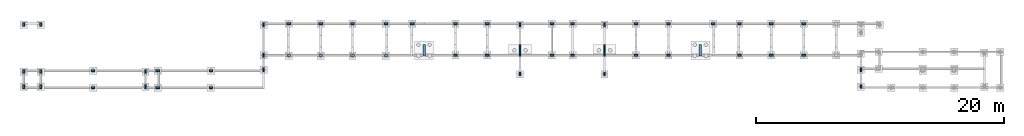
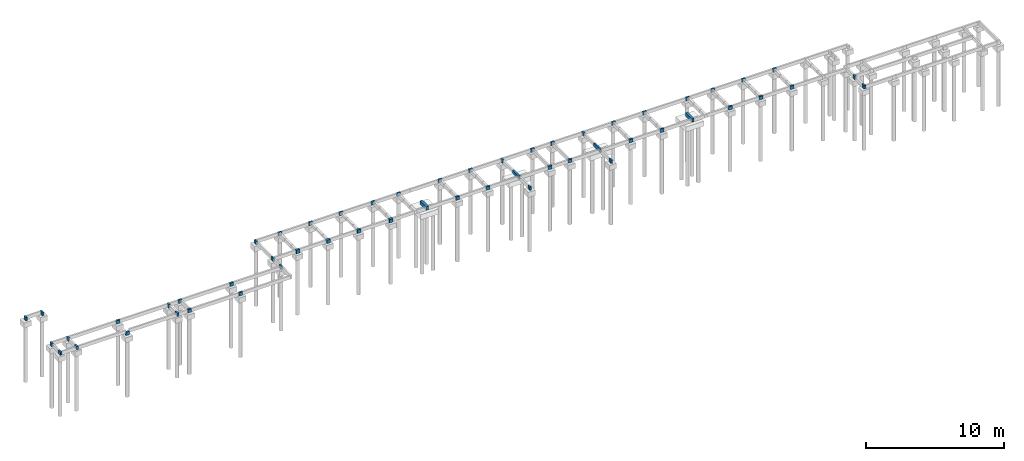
# One storey, part 2 of 6: 55 columns.
"""IFC4 building model written with IfcOpenShell, lengths in centimetres."""

import ifcopenshell
import ifcopenshell.guid

model = None  # the IFC model being written
_history = None  # IfcOwnerHistory: only IFC2X3 demands one
_inside = {}  # id of a spatial element -> (the spatial element, [elements in it])
_under = {}  # id of a project, library or spatial element -> (it, [spatial elements below it])
_declared = {}  # id of a project -> (the project, [libraries it declares])
_typed = {}  # id of a type object -> (the type object, [elements of that type])
_made_of = {}  # id of a material, layer set ... -> (it, [elements and type objects made of it])


def new_model(schema):
    """Start an empty IFC model of exactly this schema.

    Asked for "IFC4X3", IfcOpenShell would pick the latest addendum, in which some entities
    have other attributes; the version numbers below select the first issue.
    IFC2X3 requires an IfcOwnerHistory on every rooted entity: one is made here for all.
    """
    global model, _history
    if schema == "IFC4X3":
        model = ifcopenshell.file(schema_version=(4, 3, 0, 0))
    else:
        model = ifcopenshell.file(schema=schema)
    _inside.clear()
    _under.clear()
    _declared.clear()
    _typed.clear()
    _made_of.clear()
    _history = None
    if model.schema == "IFC2X3":
        org = make("IfcOrganization", Name="unknown")
        user = make(
            "IfcPersonAndOrganization",
            ThePerson=make("IfcPerson", FamilyName="unknown"),
            TheOrganization=org,
        )
        app = make(
            "IfcApplication",
            ApplicationDeveloper=org,
            Version="unknown",
            ApplicationFullName="unknown",
            ApplicationIdentifier="unknown",
        )
        _history = make(
            "IfcOwnerHistory",
            OwningUser=user,
            OwningApplication=app,
            ChangeAction="ADDED",
            CreationDate=0,
        )
    return model


def make(cls, **values):
    """One entity of the class cls with the attributes given. An attribute that is None is left unset."""
    return model.create_entity(
        cls, **{name: value for name, value in values.items() if value is not None}
    )


def rooted(cls, **values):
    """An entity with a GlobalId (a new one), such as an element, a storey or a relation."""
    return make(cls, GlobalId=ifcopenshell.guid.new(), OwnerHistory=_history, **values)


def si_unit(unit_type, name, prefix=None):
    """IfcSIUnit, for example si_unit("LENGTHUNIT", "METRE", prefix="MILLI")."""
    return make("IfcSIUnit", UnitType=unit_type, Prefix=prefix, Name=name)


def derived_unit(unit_type, elements):
    """IfcDerivedUnit: a product of units, each with its exponent."""
    return make(
        "IfcDerivedUnit",
        Elements=[
            make("IfcDerivedUnitElement", Unit=unit, Exponent=power)
            for unit, power in elements
        ],
        UnitType=unit_type,
    )


def assignment(units):
    """IfcUnitAssignment: the units of a project."""
    return None if units is None else make("IfcUnitAssignment", Units=units)


def point(xyz):
    """IfcCartesianPoint."""
    return None if xyz is None else make("IfcCartesianPoint", Coordinates=xyz)


def direction(xyz):
    """IfcDirection."""
    return None if xyz is None else make("IfcDirection", DirectionRatios=xyz)


def frame(location, z_axis=None, x_axis=None):
    """IfcAxis2Placement3D, a coordinate frame: its origin and axes. An axis left out is left unset."""
    return make(
        "IfcAxis2Placement3D",
        Location=point(location),
        Axis=direction(z_axis),
        RefDirection=direction(x_axis),
    )


def frame_2d(location, x_axis=None):
    """IfcAxis2Placement2D, a coordinate frame in the plane: its origin and x axis."""
    return make(
        "IfcAxis2Placement2D", Location=point(location), RefDirection=direction(x_axis)
    )


def origin_with_axes():
    """The frame at (0, 0, 0) with the z axis (0, 0, 1) and the x axis (1, 0, 0) written out."""
    return frame((0.0, 0.0, 0.0), z_axis=(0.0, 0.0, 1.0), x_axis=(1.0, 0.0, 0.0))


def origin_2d_with_axis():
    """The frame at (0, 0) in the plane with the x axis (1, 0) written out."""
    return frame_2d((0.0, 0.0), x_axis=(1.0, 0.0))


def place(relative_to, where):
    """IfcLocalPlacement: puts the frame where relative to a parent placement (None: the world)."""
    return make(
        "IfcLocalPlacement", PlacementRelTo=relative_to, RelativePlacement=where
    )


def context(
    kind, dimensions, precision=None, world=None, true_north=None, identifier=None
):
    """IfcGeometricRepresentationContext, for example the 3D "Model" context."""
    return make(
        "IfcGeometricRepresentationContext",
        ContextIdentifier=identifier,
        ContextType=kind,
        CoordinateSpaceDimension=dimensions,
        Precision=precision,
        WorldCoordinateSystem=world,
        TrueNorth=true_north,
    )


def project(units=None, contexts=None):
    """IfcProject with its units and contexts."""
    return rooted(
        "IfcProject",
        Name="project",
        RepresentationContexts=contexts,
        UnitsInContext=assignment(units),
    )


def spatial(cls, under=None, at=None, **own):
    """A site, building, storey or space (cls), placed at a placement, below another one or the project."""
    s = rooted(cls, ObjectPlacement=at, **own)
    if under is not None:
        _under.setdefault(under.id(), (under, []))[1].append(s)
    return s


def profile(cls, at=None, kind="AREA", **sizes):
    """A parametric profile (cls). Its sizes go by their IFC names, for example OverallWidth=200.0."""
    return make(cls, ProfileType=kind, Position=at, **sizes)


def rectangle(**sizes):
    """IfcRectangleProfileDef."""
    return profile("IfcRectangleProfileDef", **sizes)


def extrude(swept, where, along, depth):
    """IfcExtrudedAreaSolid: the profile swept, set in the frame where, extruded along a direction by depth."""
    return make(
        "IfcExtrudedAreaSolid",
        SweptArea=swept,
        Position=where,
        ExtrudedDirection=direction(along),
        Depth=depth,
    )


def shape(context_of_items, identifier, shape_type, items):
    """IfcShapeRepresentation: the items that make up one representation, for example the "Body"."""
    return make(
        "IfcShapeRepresentation",
        ContextOfItems=context_of_items,
        RepresentationIdentifier=identifier,
        RepresentationType=shape_type,
        Items=items,
    )


def material(Name=None, Category=None):
    """IfcMaterial."""
    return make("IfcMaterial", Name=Name, Category=Category)


def made_of(thing, what):
    """Note that an element or type object is made of a material, layer set ...; save() writes the relation."""
    if what is not None:
        _made_of.setdefault(what.id(), (what, []))[1].append(thing)
    return thing


def element(
    cls,
    number,
    at=None,
    inside=None,
    cuts=None,
    type_object=None,
    material=None,
    context=None,
    identifier="Body",
    shape_type=None,
    held_by="IfcProductDefinitionShape",
    body=None,
    shapes=None,
    **own,
):
    """One element of the class cls, such as IfcWall. Its Tag is "e" and its number.

    at: its placement. inside: the storey or other place that contains it. cuts: it is an
    opening in that element (IfcRelVoidsElement). A single representation is given by context,
    identifier, shape_type and body (its items); several are given by shapes. held_by: the class
    of the entity that holds the representations. save() writes the other relations.
    """
    e = rooted(cls, Tag="e%d" % number, ObjectPlacement=at, **own)
    if body is not None:
        shapes = [shape(context, identifier, shape_type, body)]
    if shapes is not None:
        e.Representation = make(held_by, Representations=shapes)
    if inside is not None:
        _inside.setdefault(inside.id(), (inside, []))[1].append(e)
    if cuts is not None:
        rooted(
            "IfcRelVoidsElement", RelatingBuildingElement=cuts, RelatedOpeningElement=e
        )
    if type_object is not None:
        _typed.setdefault(type_object.id(), (type_object, []))[1].append(e)
    return made_of(e, material)


def aggregate(whole, parts):
    """IfcRelAggregates: a whole, such as a stair, and the parts it consists of."""
    return rooted("IfcRelAggregates", RelatingObject=whole, RelatedObjects=parts)


def save(model, path):
    """Write the relations noted so far, then the file.

    IfcRelAggregates (storeys below a building ...), IfcRelContainedInSpatialStructure (elements
    in a storey), IfcRelDefinesByType, IfcRelAssociatesMaterial and IfcRelDeclares: one each for
    every whole, place, type object, material and project.
    """
    for whole, parts in _under.values():
        aggregate(whole, parts)
    for where, things in _inside.values():
        rooted(
            "IfcRelContainedInSpatialStructure",
            RelatedElements=things,
            RelatingStructure=where,
        )
    for kind, things in _typed.values():
        rooted("IfcRelDefinesByType", RelatedObjects=things, RelatingType=kind)
    for what, things in _made_of.values():
        rooted("IfcRelAssociatesMaterial", RelatedObjects=things, RelatingMaterial=what)
    for by, libraries in _declared.values():
        rooted("IfcRelDeclares", RelatingContext=by, RelatedDefinitions=libraries)
    model.write(path)


model = new_model("IFC4")

# Units and contexts
model_context = context("Model", 3, precision=1e-05, world=origin_with_axes(), identifier="Body")
ifc_project = project(units=[si_unit("LENGTHUNIT", "METRE", prefix="CENTI"), si_unit("VOLUMEUNIT", "CUBIC_METRE"), si_unit("AREAUNIT", "SQUARE_METRE"), si_unit("POWERUNIT", "WATT"), si_unit("LUMINOUSFLUXUNIT", "LUMEN"), si_unit("ELECTRICCURRENTUNIT", "AMPERE"), si_unit("PRESSUREUNIT", "PASCAL", prefix="KILO"), si_unit("MASSUNIT", "GRAM", prefix="KILO"), si_unit("PLANEANGLEUNIT", "RADIAN"), derived_unit("VOLUMETRICFLOWRATEUNIT", [(si_unit("LENGTHUNIT", "METRE"), 3), (si_unit("TIMEUNIT", "SECOND"), -1)])], contexts=[model_context])

# Site, building, storey
site_placement = place(None, origin_with_axes())
site = spatial("IfcSite", under=ifc_project, at=site_placement)
building_placement = place(site_placement, frame((0.0, 0.0, -170.0)))
building = spatial("IfcBuilding", under=site, at=building_placement)
storey_placement = place(building_placement, origin_with_axes())
storey = spatial("IfcBuildingStorey", under=building, at=storey_placement, Name="Baldrame", CompositionType="ELEMENT", Elevation=-170.0)

# Columns
ifc_material = material(Name="Concreto")
column_1_placement = place(storey_placement, frame((-1924.5, 378.5, 0.0), z_axis=(0.0, 0.0, 1.0), x_axis=(1.0, 0.0, 0.0)))
element("IfcColumn", 1, at=column_1_placement, inside=storey, material=ifc_material, Name="P1", context=model_context, shape_type="SolidModel", body=[
    extrude(rectangle(XDim=14.0, YDim=30.0, at=origin_2d_with_axis()), frame((0.0, 0.0, -30.0), z_axis=(0.0, 0.0, 1.0), x_axis=(-1.0, 0.0, 0.0)), (0.0, 0.0, 1.0), 30.0),
])
column_2_placement = place(storey_placement, frame((1810.24, 385.0, 0.0), z_axis=(0.0, 0.0, 1.0), x_axis=(1.0, 0.0, 0.0)))
element("IfcColumn", 2, at=column_2_placement, inside=storey, material=ifc_material, Name="P10", context=model_context, shape_type="SolidModel", body=[
    extrude(rectangle(XDim=14.0, YDim=30.0, at=origin_2d_with_axis()), frame((0.0, 0.0, -30.0), z_axis=(0.0, 0.0, 1.0), x_axis=(0.0, -1.0, 0.0)), (0.0, 0.0, 1.0), 30.0),
])
column_3_placement = place(storey_placement, frame((4820.12, -121.5, 0.0), z_axis=(0.0, 0.0, 1.0), x_axis=(1.0, 0.0, 0.0)))
element("IfcColumn", 3, at=column_3_placement, inside=storey, material=ifc_material, Name="P100", context=model_context, shape_type="SolidModel", body=[
    extrude(rectangle(XDim=14.0, YDim=30.0, at=origin_2d_with_axis()), frame((0.0, 0.0, -30.0), z_axis=(0.0, 0.0, 1.0), x_axis=(1.0, 0.0, 0.0)), (0.0, 0.0, 1.0), 30.0),
])
column_4_placement = place(storey_placement, frame((-1365.75, -130.0, -19.0), z_axis=(0.0, 0.0, 1.0), x_axis=(1.0, 0.0, 0.0)))
element("IfcColumn", 4, at=column_4_placement, inside=storey, material=ifc_material, Name="P106", context=model_context, shape_type="SolidModel", body=[
    extrude(rectangle(XDim=14.0, YDim=30.0, at=origin_2d_with_axis()), frame((0.0, 0.0, -30.0), z_axis=(0.0, 0.0, 1.0), x_axis=(0.0, -1.0, 0.0)), (0.0, 0.0, 1.0), 30.0),
])
column_5_placement = place(storey_placement, frame((2073.56, 377.0, 0.0), z_axis=(0.0, 0.0, 1.0), x_axis=(1.0, 0.0, 0.0)))
element("IfcColumn", 5, at=column_5_placement, inside=storey, material=ifc_material, Name="P11", context=model_context, shape_type="SolidModel", body=[
    extrude(rectangle(XDim=14.0, YDim=30.0, at=origin_2d_with_axis()), frame((0.0, 0.0, -30.0), z_axis=(0.0, 0.0, 1.0), x_axis=(1.0, 0.0, 0.0)), (0.0, 0.0, 1.0), 30.0),
])
for number, where, z_axis, x_axis, name in (
    (6, (2330.56, 385.0, 0.0), (0.0, 0.0, 1.0), (1.0, 0.0, 0.0), "P12"),
    (7, (2497.56, 385.0, 0.0), (0.0, 0.0, 1.0), (1.0, 0.0, 0.0), "P13"),
):
    element("IfcColumn", number, at=place(storey_placement, frame(where, z_axis=z_axis, x_axis=x_axis)), inside=storey, material=ifc_material, Name=name, context=model_context, shape_type="SolidModel", body=[
        extrude(rectangle(XDim=14.0, YDim=30.0, at=origin_2d_with_axis()), frame((0.0, 0.0, -30.0), z_axis=(0.0, 0.0, 1.0), x_axis=(0.0, -1.0, 0.0)), (0.0, 0.0, 1.0), 30.0),
    ])
column_6_placement = place(storey_placement, frame((2754.56, 377.0, 0.0), z_axis=(0.0, 0.0, 1.0), x_axis=(1.0, 0.0, 0.0)))
element("IfcColumn", 8, at=column_6_placement, inside=storey, material=ifc_material, Name="P14", context=model_context, shape_type="SolidModel", body=[
    extrude(rectangle(XDim=14.0, YDim=30.0, at=origin_2d_with_axis()), frame((0.0, 0.0, -30.0), z_axis=(0.0, 0.0, 1.0), x_axis=(-1.0, 0.0, 0.0)), (0.0, 0.0, 1.0), 30.0),
])
for number, where, z_axis, x_axis, name in (
    (9, (3008.01, 385.0, 0.0), (0.0, 0.0, 1.0), (1.0, 0.0, 0.0), "P15"),
    (10, (3269.95, 385.0, 0.0), (0.0, 0.0, 1.0), (1.0, 0.0, 0.0), "P16"),
    (11, (3629.09, 385.0, 0.0), (0.0, 0.0, 1.0), (1.0, 0.0, 0.0), "P17"),
    (12, (3842.09, 385.0, 0.0), (0.0, 0.0, 1.0), (1.0, 0.0, 0.0), "P18"),
    (13, (4098.54, 385.0, 0.0), (0.0, 0.0, 1.0), (1.0, 0.0, 0.0), "P19"),
):
    element("IfcColumn", number, at=place(storey_placement, frame(where, z_axis=z_axis, x_axis=x_axis)), inside=storey, material=ifc_material, Name=name, context=model_context, shape_type="SolidModel", body=[
        extrude(rectangle(XDim=14.0, YDim=30.0, at=origin_2d_with_axis()), frame((0.0, 0.0, -30.0), z_axis=(0.0, 0.0, 1.0), x_axis=(0.0, -1.0, 0.0)), (0.0, 0.0, 1.0), 30.0),
    ])
column_7_placement = place(storey_placement, frame((-1787.5, 378.5, 0.0), z_axis=(0.0, 0.0, 1.0), x_axis=(1.0, 0.0, 0.0)))
element("IfcColumn", 14, at=column_7_placement, inside=storey, material=ifc_material, Name="P2", context=model_context, shape_type="SolidModel", body=[
    extrude(rectangle(XDim=14.0, YDim=30.0, at=origin_2d_with_axis()), frame((0.0, 0.0, -30.0), z_axis=(0.0, 0.0, 1.0), x_axis=(1.0, 0.0, 0.0)), (0.0, 0.0, 1.0), 30.0),
])
column_8_placement = place(storey_placement, frame((4360.17, 385.0, 0.0), z_axis=(0.0, 0.0, 1.0), x_axis=(1.0, 0.0, 0.0)))
element("IfcColumn", 15, at=column_8_placement, inside=storey, material=ifc_material, Name="P20", context=model_context, shape_type="SolidModel", body=[
    extrude(rectangle(XDim=14.0, YDim=30.0, at=origin_2d_with_axis()), frame((0.0, 0.0, -30.0), z_axis=(0.0, 0.0, 1.0), x_axis=(0.0, -1.0, 0.0)), (0.0, 0.0, 1.0), 30.0),
])
column_9_placement = place(storey_placement, frame((7.5, 377.0, 0.0), z_axis=(0.0, 0.0, 1.0), x_axis=(1.0, 0.0, 0.0)))
element("IfcColumn", 16, at=column_9_placement, inside=storey, material=ifc_material, Name="P3", context=model_context, shape_type="SolidModel", body=[
    extrude(rectangle(XDim=14.0, YDim=30.0, at=origin_2d_with_axis()), frame((0.0, 0.0, -30.0), z_axis=(0.0, 0.0, 1.0), x_axis=(-1.0, 0.0, 0.0)), (0.0, 0.0, 1.0), 30.0),
])
column_10_placement = place(storey_placement, frame((211.5, 385.0, 0.0), z_axis=(0.0, 0.0, 1.0), x_axis=(1.0, 0.0, 0.0)))
element("IfcColumn", 17, at=column_10_placement, inside=storey, material=ifc_material, Name="P4", context=model_context, shape_type="SolidModel", body=[
    extrude(rectangle(XDim=14.0, YDim=30.0, at=origin_2d_with_axis()), frame((0.0, 0.0, -30.0), z_axis=(0.0, 0.0, 1.0), x_axis=(0.0, -1.0, 0.0)), (0.0, 0.0, 1.0), 30.0),
])
column_11_placement = place(storey_placement, frame((1300.56, 170.5, 0.0), z_axis=(0.0, 0.0, 1.0), x_axis=(1.0, 0.0, 0.0)))
element("IfcColumn", 18, at=column_11_placement, inside=storey, material=ifc_material, Name="P44", context=model_context, shape_type="SolidModel", body=[
    extrude(rectangle(XDim=20.0, YDim=93.0, at=origin_2d_with_axis()), frame((0.0, 0.0, -30.0), z_axis=(0.0, 0.0, 1.0), x_axis=(-1.0, 0.0, 0.0)), (0.0, 0.0, 1.0), 30.0),
])
for number, where, z_axis, x_axis, name in (
    (19, (2073.56, 170.5, 0.0), (0.0, 0.0, 1.0), (1.0, 0.0, 0.0), "P47"),
    (20, (2754.56, 170.5, 0.0), (0.0, 0.0, 1.0), (1.0, 0.0, 0.0), "P48"),
):
    element("IfcColumn", number, at=place(storey_placement, frame(where, z_axis=z_axis, x_axis=x_axis)), inside=storey, material=ifc_material, Name=name, context=model_context, shape_type="SolidModel", body=[
        extrude(rectangle(XDim=14.0, YDim=93.0, at=origin_2d_with_axis()), frame((0.0, 0.0, -30.0), z_axis=(0.0, 0.0, 1.0), x_axis=(1.0, 0.0, 0.0)), (0.0, 0.0, 1.0), 30.0),
    ])
column_12_placement = place(storey_placement, frame((467.82, 385.0, 0.0), z_axis=(0.0, 0.0, 1.0), x_axis=(1.0, 0.0, 0.0)))
element("IfcColumn", 21, at=column_12_placement, inside=storey, material=ifc_material, Name="P5", context=model_context, shape_type="SolidModel", body=[
    extrude(rectangle(XDim=14.0, YDim=30.0, at=origin_2d_with_axis()), frame((0.0, 0.0, -30.0), z_axis=(0.0, 0.0, 1.0), x_axis=(0.0, -1.0, 0.0)), (0.0, 0.0, 1.0), 30.0),
])
column_13_placement = place(storey_placement, frame((3527.56, 170.5, 0.0), z_axis=(0.0, 0.0, 1.0), x_axis=(1.0, 0.0, 0.0)))
element("IfcColumn", 22, at=column_13_placement, inside=storey, material=ifc_material, Name="P51", context=model_context, shape_type="SolidModel", body=[
    extrude(rectangle(XDim=20.0, YDim=93.0, at=origin_2d_with_axis()), frame((0.0, 0.0, -30.0), z_axis=(0.0, 0.0, 1.0), x_axis=(-1.0, 0.0, 0.0)), (0.0, 0.0, 1.0), 30.0),
])
column_14_placement = place(storey_placement, frame((7.5, 131.0, 0.0), z_axis=(0.0, 0.0, 1.0), x_axis=(1.0, 0.0, 0.0)))
element("IfcColumn", 23, at=column_14_placement, inside=storey, material=ifc_material, Name="P57", context=model_context, shape_type="SolidModel", body=[
    extrude(rectangle(XDim=14.0, YDim=30.0, at=origin_2d_with_axis()), frame((0.0, 0.0, -30.0), z_axis=(0.0, 0.0, 1.0), x_axis=(-1.0, 0.0, 0.0)), (0.0, 0.0, 1.0), 30.0),
])
for number, where, z_axis, x_axis, name in (
    (24, (211.5, 128.5, 0.0), (0.0, 0.0, 1.0), (1.0, 0.0, 0.0), "P58"),
    (25, (467.82, 128.5, 0.0), (0.0, 0.0, 1.0), (1.0, 0.0, 0.0), "P59"),
):
    element("IfcColumn", number, at=place(storey_placement, frame(where, z_axis=z_axis, x_axis=x_axis)), inside=storey, material=ifc_material, Name=name, context=model_context, shape_type="SolidModel", body=[
        extrude(rectangle(XDim=19.0, YDim=30.0, at=origin_2d_with_axis()), frame((0.0, 0.0, -30.0), z_axis=(0.0, 0.0, 1.0), x_axis=(0.0, -1.0, 0.0)), (0.0, 0.0, 1.0), 30.0),
    ])
column_15_placement = place(storey_placement, frame((724.14, 385.0, 0.0), z_axis=(0.0, 0.0, 1.0), x_axis=(1.0, 0.0, 0.0)))
element("IfcColumn", 26, at=column_15_placement, inside=storey, material=ifc_material, Name="P6", context=model_context, shape_type="SolidModel", body=[
    extrude(rectangle(XDim=14.0, YDim=30.0, at=origin_2d_with_axis()), frame((0.0, 0.0, -30.0), z_axis=(0.0, 0.0, 1.0), x_axis=(0.0, -1.0, 0.0)), (0.0, 0.0, 1.0), 30.0),
])
for number, where, z_axis, x_axis, name in (
    (27, (724.14, 128.5, 0.0), (0.0, 0.0, 1.0), (1.0, 0.0, 0.0), "P60"),
    (28, (993.53, 128.5, 0.0), (0.0, 0.0, 1.0), (1.0, 0.0, 0.0), "P61"),
):
    element("IfcColumn", number, at=place(storey_placement, frame(where, z_axis=z_axis, x_axis=x_axis)), inside=storey, material=ifc_material, Name=name, context=model_context, shape_type="SolidModel", body=[
        extrude(rectangle(XDim=19.0, YDim=30.0, at=origin_2d_with_axis()), frame((0.0, 0.0, -30.0), z_axis=(0.0, 0.0, 1.0), x_axis=(0.0, -1.0, 0.0)), (0.0, 0.0, 1.0), 30.0),
    ])
for number, where, z_axis, x_axis, name in (
    (29, (1553.92, 131.0, 0.0), (0.0, 0.0, 1.0), (1.0, 0.0, 0.0), "P62"),
    (30, (1810.24, 131.0, 0.0), (0.0, 0.0, 1.0), (1.0, 0.0, 0.0), "P63"),
    (31, (2330.56, 131.0, 0.0), (0.0, 0.0, 1.0), (1.0, 0.0, 0.0), "P64"),
    (32, (2497.56, 131.0, 0.0), (0.0, 0.0, 1.0), (1.0, 0.0, 0.0), "P65"),
    (33, (3008.01, 131.0, 0.0), (0.0, 0.0, 1.0), (1.0, 0.0, 0.0), "P66"),
    (34, (3269.95, 131.0, 0.0), (0.0, 0.0, 1.0), (1.0, 0.0, 0.0), "P67"),
    (35, (3842.09, 131.0, 0.0), (0.0, 0.0, 1.0), (1.0, 0.0, 0.0), "P68"),
    (36, (4098.54, 131.0, 0.0), (0.0, 0.0, 1.0), (1.0, 0.0, 0.0), "P69"),
    (37, (993.53, 385.0, 0.0), (0.0, 0.0, 1.0), (1.0, 0.0, 0.0), "P7"),
    (38, (4360.17, 131.0, 0.0), (0.0, 0.0, 1.0), (1.0, 0.0, 0.0), "P70"),
):
    element("IfcColumn", number, at=place(storey_placement, frame(where, z_axis=z_axis, x_axis=x_axis)), inside=storey, material=ifc_material, Name=name, context=model_context, shape_type="SolidModel", body=[
        extrude(rectangle(XDim=14.0, YDim=30.0, at=origin_2d_with_axis()), frame((0.0, 0.0, -30.0), z_axis=(0.0, 0.0, 1.0), x_axis=(0.0, -1.0, 0.0)), (0.0, 0.0, 1.0), 30.0),
    ])
for number, where, z_axis, x_axis, name in (
    (39, (-1924.5, -1.0, 0.0), (0.0, 0.0, 1.0), (1.0, 0.0, 0.0), "P78"),
    (40, (-1787.5, -1.0, 0.0), (0.0, 0.0, 1.0), (1.0, 0.0, 0.0), "P79"),
):
    element("IfcColumn", number, at=place(storey_placement, frame(where, z_axis=z_axis, x_axis=x_axis)), inside=storey, material=ifc_material, Name=name, context=model_context, shape_type="SolidModel", body=[
        extrude(rectangle(XDim=14.0, YDim=30.0, at=origin_2d_with_axis()), frame((0.0, 0.0, -30.0), z_axis=(0.0, 0.0, 1.0), x_axis=(1.0, 0.0, 0.0)), (0.0, 0.0, 1.0), 30.0),
    ])
for number, where, z_axis, x_axis, name in (
    (41, (1206.53, 385.0, 0.0), (0.0, 0.0, 1.0), (1.0, 0.0, 0.0), "P8"),
    (42, (-1365.5, 7.0, 0.0), (0.0, 0.0, 1.0), (1.0, 0.0, 0.0), "P80"),
):
    element("IfcColumn", number, at=place(storey_placement, frame(where, z_axis=z_axis, x_axis=x_axis)), inside=storey, material=ifc_material, Name=name, context=model_context, shape_type="SolidModel", body=[
        extrude(rectangle(XDim=14.0, YDim=30.0, at=origin_2d_with_axis()), frame((0.0, 0.0, -30.0), z_axis=(0.0, 0.0, 1.0), x_axis=(0.0, -1.0, 0.0)), (0.0, 0.0, 1.0), 30.0),
    ])
column_16_placement = place(storey_placement, frame((-943.5, -1.0, 0.0), z_axis=(0.0, 0.0, 1.0), x_axis=(1.0, 0.0, 0.0)))
element("IfcColumn", 43, at=column_16_placement, inside=storey, material=ifc_material, Name="P81", context=model_context, shape_type="SolidModel", body=[
    extrude(rectangle(XDim=14.0, YDim=30.0, at=origin_2d_with_axis()), frame((0.0, 0.0, -30.0), z_axis=(0.0, 0.0, 1.0), x_axis=(1.0, 0.0, 0.0)), (0.0, 0.0, 1.0), 30.0),
])
for number, where, z_axis, x_axis, name in (
    (44, (-845.5, 7.0, 0.0), (0.0, 0.0, 1.0), (1.0, 0.0, 0.0), "P82"),
    (45, (-415.0, 7.0, 0.0), (0.0, 0.0, 1.0), (1.0, 0.0, 0.0), "P83"),
):
    element("IfcColumn", number, at=place(storey_placement, frame(where, z_axis=z_axis, x_axis=x_axis)), inside=storey, material=ifc_material, Name=name, context=model_context, shape_type="SolidModel", body=[
        extrude(rectangle(XDim=14.0, YDim=30.0, at=origin_2d_with_axis()), frame((0.0, 0.0, -30.0), z_axis=(0.0, 0.0, 1.0), x_axis=(0.0, -1.0, 0.0)), (0.0, 0.0, 1.0), 30.0),
    ])
for number, where, z_axis, x_axis, name in (
    (46, (7.5, 15.0, 0.0), (0.0, 0.0, 1.0), (1.0, 0.0, 0.0), "P84"),
    (47, (2073.57, -20.5, 0.0), (0.0, 0.0, 1.0), (1.0, 0.0, 0.0), "P85"),
):
    element("IfcColumn", number, at=place(storey_placement, frame(where, z_axis=z_axis, x_axis=x_axis)), inside=storey, material=ifc_material, Name=name, context=model_context, shape_type="SolidModel", body=[
        extrude(rectangle(XDim=14.0, YDim=30.0, at=origin_2d_with_axis()), frame((0.0, 0.0, -30.0), z_axis=(0.0, 0.0, 1.0), x_axis=(-1.0, 0.0, 0.0)), (0.0, 0.0, 1.0), 30.0),
    ])
column_17_placement = place(storey_placement, frame((2754.56, -20.5, 0.0), z_axis=(0.0, 0.0, 1.0), x_axis=(1.0, 0.0, 0.0)))
element("IfcColumn", 48, at=column_17_placement, inside=storey, material=ifc_material, Name="P86", context=model_context, shape_type="SolidModel", body=[
    extrude(rectangle(XDim=14.0, YDim=30.0, at=origin_2d_with_axis()), frame((0.0, 0.0, -30.0), z_axis=(0.0, 0.0, 1.0), x_axis=(1.0, 0.0, 0.0)), (0.0, 0.0, 1.0), 30.0),
])
column_18_placement = place(storey_placement, frame((4820.12, 14.0, 0.0), z_axis=(0.0, 0.0, 1.0), x_axis=(1.0, 0.0, 0.0)))
element("IfcColumn", 49, at=column_18_placement, inside=storey, material=ifc_material, Name="P87", context=model_context, shape_type="SolidModel", body=[
    extrude(rectangle(XDim=14.0, YDim=29.0, at=origin_2d_with_axis()), frame((0.0, 0.0, -30.0), z_axis=(0.0, 0.0, 1.0), x_axis=(-1.0, 0.0, 0.0)), (0.0, 0.0, 1.0), 30.0),
])
column_19_placement = place(storey_placement, frame((1553.92, 385.0, 0.0), z_axis=(0.0, 0.0, 1.0), x_axis=(1.0, 0.0, 0.0)))
element("IfcColumn", 50, at=column_19_placement, inside=storey, material=ifc_material, Name="P9", context=model_context, shape_type="SolidModel", body=[
    extrude(rectangle(XDim=14.0, YDim=30.0, at=origin_2d_with_axis()), frame((0.0, 0.0, -30.0), z_axis=(0.0, 0.0, 1.0), x_axis=(0.0, -1.0, 0.0)), (0.0, 0.0, 1.0), 30.0),
])
column_20_placement = place(storey_placement, frame((-1924.5, -122.0, 0.0), z_axis=(0.0, 0.0, 1.0), x_axis=(1.0, 0.0, 0.0)))
element("IfcColumn", 51, at=column_20_placement, inside=storey, material=ifc_material, Name="P93", context=model_context, shape_type="SolidModel", body=[
    extrude(rectangle(XDim=14.0, YDim=30.0, at=origin_2d_with_axis()), frame((0.0, 0.0, -30.0), z_axis=(0.0, 0.0, 1.0), x_axis=(1.0, 0.0, 0.0)), (0.0, 0.0, 1.0), 30.0),
])
for number, where, z_axis, x_axis, name in (
    (52, (-1787.5, -122.0, 0.0), (0.0, 0.0, 1.0), (1.0, 0.0, 0.0), "P94"),
    (53, (-943.5, -122.0, 0.0), (0.0, 0.0, 1.0), (1.0, 0.0, 0.0), "P96"),
):
    element("IfcColumn", number, at=place(storey_placement, frame(where, z_axis=z_axis, x_axis=x_axis)), inside=storey, material=ifc_material, Name=name, context=model_context, shape_type="SolidModel", body=[
        extrude(rectangle(XDim=14.0, YDim=30.0, at=origin_2d_with_axis()), frame((0.0, 0.0, -30.0), z_axis=(0.0, 0.0, 1.0), x_axis=(-1.0, 0.0, 0.0)), (0.0, 0.0, 1.0), 30.0),
    ])
for number, where, z_axis, x_axis, name in (
    (54, (-845.5, -130.0, 0.0), (0.0, 0.0, 1.0), (1.0, 0.0, 0.0), "P97"),
    (55, (-416.45, -130.0, 0.0), (0.0, 0.0, 1.0), (1.0, 0.0, 0.0), "P98"),
):
    element("IfcColumn", number, at=place(storey_placement, frame(where, z_axis=z_axis, x_axis=x_axis)), inside=storey, material=ifc_material, Name=name, context=model_context, shape_type="SolidModel", body=[
        extrude(rectangle(XDim=14.0, YDim=30.0, at=origin_2d_with_axis()), frame((0.0, 0.0, -30.0), z_axis=(0.0, 0.0, 1.0), x_axis=(0.0, -1.0, 0.0)), (0.0, 0.0, 1.0), 30.0),
    ])

save(model, "model.ifc")
